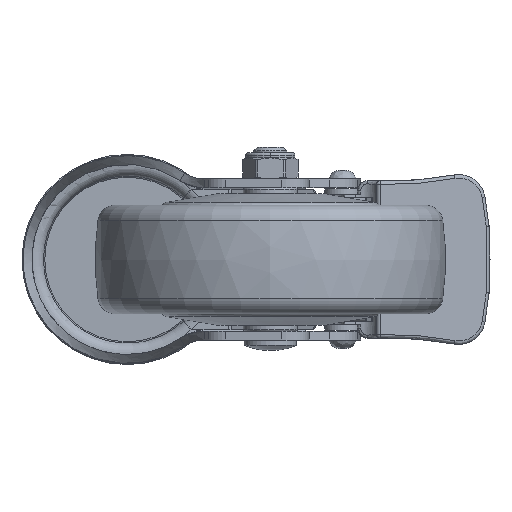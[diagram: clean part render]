
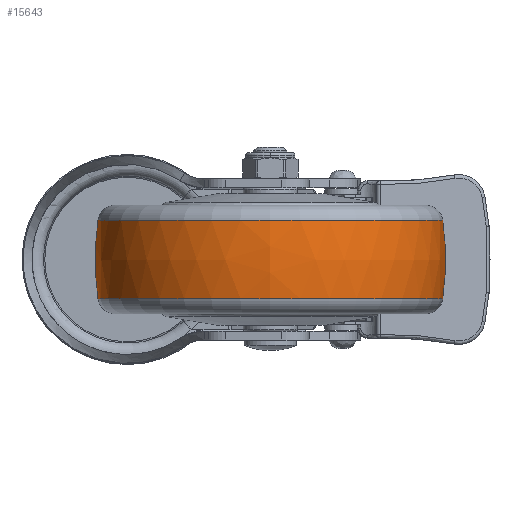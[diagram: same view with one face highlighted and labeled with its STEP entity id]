
A CAD part, front view. The second image highlights one B-rep face of the part: STEP entity #15643.
In plain terms, the highlighted free-form (B-spline) face has degree [3, 3] with [7, 4] control points.
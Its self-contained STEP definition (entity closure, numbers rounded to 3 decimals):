
#14954=CARTESIAN_POINT('',(-11.2,0.,0.));
#14955=DIRECTION('',(-1.,0.,0.));
#14956=DIRECTION('',(0.,1.,0.));
#14957=AXIS2_PLACEMENT_3D('',#14954,#14955,#14956);
#14969=CARTESIAN_POINT('',(0.,-30.,0.));
#14970=DIRECTION('',(0.,0.,1.));
#14971=DIRECTION('',(0.14,0.99,0.));
#14972=AXIS2_PLACEMENT_3D('',#14969,#14970,#14971);
#14974=CARTESIAN_POINT('',(0.,30.,0.));
#14975=DIRECTION('',(0.,0.,-1.));
#14976=DIRECTION('',(0.14,-0.99,0.));
#14977=AXIS2_PLACEMENT_3D('',#14974,#14975,#14976);
#14979=CARTESIAN_POINT('',(11.2,0.,0.));
#14980=DIRECTION('',(-1.,0.,0.));
#14981=DIRECTION('',(0.,1.,0.));
#14982=AXIS2_PLACEMENT_3D('',#14979,#14980,#14981);
#15217=CARTESIAN_POINT('',(11.2,49.212,0.));
#15219=VERTEX_POINT('',#15217);
#15220=CARTESIAN_POINT('',(-11.2,49.212,0.));
#15221=VERTEX_POINT('',#15220);
#15265=CARTESIAN_POINT('',(11.2,-49.212,
0.));
#15267=VERTEX_POINT('',#15265);
#15268=CARTESIAN_POINT('',(-11.2,-49.212,
0.));
#15269=VERTEX_POINT('',#15268);
#15607=CARTESIAN_POINT('',(-11.645,-49.051,
3.086));
#15608=CARTESIAN_POINT('',(-3.909,-50.187,
3.157));
#15609=CARTESIAN_POINT('',(3.909,-50.187,
3.157));
#15610=CARTESIAN_POINT('',(11.645,-49.051,
3.086));
#15611=CARTESIAN_POINT('',(-11.645,-50.95,
-27.1));
#15612=CARTESIAN_POINT('',(-3.909,-52.13,
-27.727));
#15613=CARTESIAN_POINT('',(3.909,-52.13,
-27.727));
#15614=CARTESIAN_POINT('',(11.645,-50.95,
-27.1));
#15615=CARTESIAN_POINT('',(-11.645,-30.246,
-49.148));
#15616=CARTESIAN_POINT('',(-3.909,-30.946,
-50.286));
#15617=CARTESIAN_POINT('',(3.909,-30.946,
-50.286));
#15618=CARTESIAN_POINT('',(11.645,-30.246,
-49.148));
#15619=CARTESIAN_POINT('',(-11.645,0.,
-49.148));
#15620=CARTESIAN_POINT('',(-3.909,0.,
-50.286));
#15621=CARTESIAN_POINT('',(3.909,0.,-50.286));
#15622=CARTESIAN_POINT('',(11.645,0.,
-49.148));
#15623=CARTESIAN_POINT('',(-11.645,30.246,
-49.148));
#15624=CARTESIAN_POINT('',(-3.909,30.946,
-50.286));
#15625=CARTESIAN_POINT('',(3.909,30.946,
-50.286));
#15626=CARTESIAN_POINT('',(11.645,30.246,
-49.148));
#15627=CARTESIAN_POINT('',(-11.645,50.95,
-27.1));
#15628=CARTESIAN_POINT('',(-3.909,52.13,
-27.727));
#15629=CARTESIAN_POINT('',(3.909,52.13,
-27.727));
#15630=CARTESIAN_POINT('',(11.645,50.95,
-27.1));
#15631=CARTESIAN_POINT('',(-11.645,49.051,
3.086));
#15632=CARTESIAN_POINT('',(-3.909,50.187,
3.157));
#15633=CARTESIAN_POINT('',(3.909,50.187,3.157));
#15634=CARTESIAN_POINT('',(11.645,49.051,3.086));
#15635=(BOUNDED_SURFACE()B_SPLINE_SURFACE(3,3,((#15607,#15608,#15609,#15610),(
#15611,#15612,#15613,#15614),(#15615,#15616,#15617,#15618),(#15619,#15620,
#15621,#15622),(#15623,#15624,#15625,#15626),(#15627,#15628,#15629,#15630),(
#15631,#15632,#15633,#15634)),.UNSPECIFIED.,.F.,.F.,.F.)B_SPLINE_SURFACE_WITH_KNOTS((4,3,4),(4,4),(0.,1.,2.),(0.,1.),.UNSPECIFIED.)GEOMETRIC_REPRESENTATION_ITEM()RATIONAL_B_SPLINE_SURFACE(((1.194,1.185,
1.185,1.194),(0.943,0.936,
0.936,0.943),(0.943,0.936,
0.936,0.943),(1.194,1.185,
1.185,1.194),(0.943,0.936,
0.936,0.943),(0.943,0.936,
0.936,0.943),(1.194,1.185,
1.185,1.194)))REPRESENTATION_ITEM('')SURFACE());
#15636=ORIENTED_EDGE('',*,*,#15597,.T.);
#15637=ORIENTED_EDGE('',*,*,#15550,.T.);
#15638=ORIENTED_EDGE('',*,*,#15601,.F.);
#15640=ORIENTED_EDGE('',*,*,#15639,.F.);
#15641=EDGE_LOOP('',(#15636,#15637,#15638,#15640));
#15642=FACE_OUTER_BOUND('',#15641,.F.);
#14958=CIRCLE('',#14957,49.212);
#14973=CIRCLE('',#14972,80.);
#14978=CIRCLE('',#14977,80.);
#14983=CIRCLE('',#14982,49.212);
#15550=EDGE_CURVE('',#15221,#15269,#14958,.T.);
#15597=EDGE_CURVE('',#15219,#15221,#14973,.T.);
#15601=EDGE_CURVE('',#15267,#15269,#14978,.T.);
#15639=EDGE_CURVE('',#15219,#15267,#14983,.T.);
#15643=ADVANCED_FACE('',(#15642),#15635,.T.);
